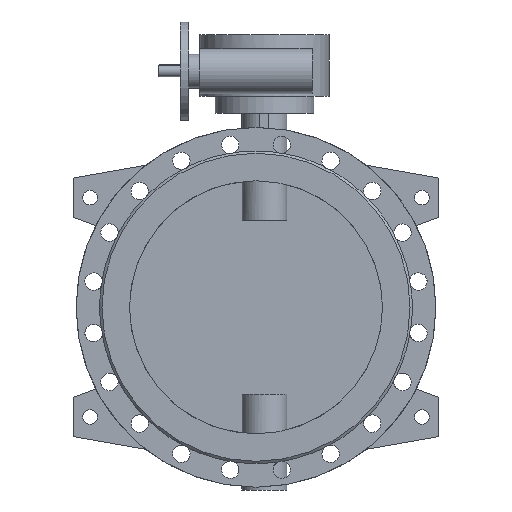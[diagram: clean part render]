
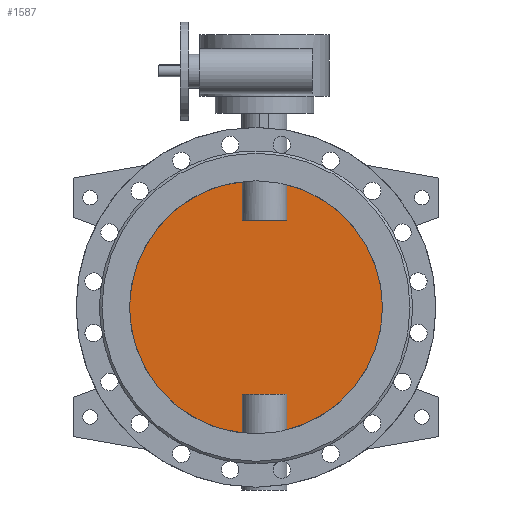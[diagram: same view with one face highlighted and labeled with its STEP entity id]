
A CAD part, front view. The second image highlights one B-rep face of the part: STEP entity #1587.
In plain terms, the highlighted planar face has unit normal (0, -1, 0).
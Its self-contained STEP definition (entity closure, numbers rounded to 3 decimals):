
#1587=ADVANCED_FACE('',(#3227),#3229,.F.);
#3227=FACE_BOUND('',#3228,.T.);
#3228=EDGE_LOOP('',(#4340,#4341,#4342,#4343,#4344,#4345,#4346,#4347));
#3229=PLANE('',#3230);
#3230=AXIS2_PLACEMENT_3D('',#3231,#3232,#3233);
#3231=CARTESIAN_POINT('',(0.,-5.,0.));
#3232=DIRECTION('',(0.,1.,0.));
#3233=DIRECTION('',(1.,0.,0.));
#4340=ORIENTED_EDGE('',*,*,#4892,.T.);
#4341=ORIENTED_EDGE('',*,*,#4902,.T.);
#4342=ORIENTED_EDGE('',*,*,#4903,.T.);
#4343=ORIENTED_EDGE('',*,*,#4904,.T.);
#4344=ORIENTED_EDGE('',*,*,#4894,.T.);
#4345=ORIENTED_EDGE('',*,*,#4905,.T.);
#4346=ORIENTED_EDGE('',*,*,#4906,.T.);
#4347=ORIENTED_EDGE('',*,*,#4907,.T.);
#4892=EDGE_CURVE('',#5791,#5792,#5793,.F.);
#4894=EDGE_CURVE('',#5796,#5794,#5797,.F.);
#4902=EDGE_CURVE('',#5792,#5811,#5812,.T.);
#4903=EDGE_CURVE('',#5811,#5813,#5814,.F.);
#4904=EDGE_CURVE('',#5813,#5796,#5815,.F.);
#4905=EDGE_CURVE('',#5794,#5816,#5817,.F.);
#4906=EDGE_CURVE('',#5816,#5818,#5819,.F.);
#4907=EDGE_CURVE('',#5818,#5791,#5820,.T.);
#5791=VERTEX_POINT('',#11141);
#5792=VERTEX_POINT('',#11142);
#5793=CIRCLE('',#11143,225.);
#5794=VERTEX_POINT('',#11147);
#5796=VERTEX_POINT('',#11233);
#5797=CIRCLE('',#11234,225.);
#5811=VERTEX_POINT('',#11377);
#5812=LINE('',#11378,#11379);
#5813=VERTEX_POINT('',#11381);
#5814=LINE('',#11382,#11383);
#5815=LINE('',#11385,#11386);
#5816=VERTEX_POINT('',#11388);
#5817=LINE('',#11389,#11390);
#5818=VERTEX_POINT('',#11392);
#5819=LINE('',#11393,#11394);
#5820=LINE('',#11396,#11397);
#11141=CARTESIAN_POINT('',(54.686,-5.,-218.253));
#11142=CARTESIAN_POINT('',(54.686,-5.,218.253));
#11143=AXIS2_PLACEMENT_3D('',#11144,#11145,#11146);
#11144=CARTESIAN_POINT('',(0.,-5.,0.));
#11145=DIRECTION('',(0.,1.,0.));
#11146=DIRECTION('',(0.243,0.,0.97));
#11147=CARTESIAN_POINT('',(-24.686,-5.,-223.642));
#11233=CARTESIAN_POINT('',(-24.686,-5.,223.642));
#11234=AXIS2_PLACEMENT_3D('',#11235,#11236,#11237);
#11235=CARTESIAN_POINT('',(0.,-5.,0.));
#11236=DIRECTION('',(0.,1.,0.));
#11237=DIRECTION('',(-0.11,0.,-0.994));
#11377=CARTESIAN_POINT('',(54.686,-5.,155.));
#11378=CARTESIAN_POINT('',(54.686,-5.,218.253));
#11379=VECTOR('',#11380,1.);
#11380=DIRECTION('',(0.,0.,-1.));
#11381=CARTESIAN_POINT('',(-24.686,-5.,155.));
#11382=CARTESIAN_POINT('',(-24.686,-5.,155.));
#11383=VECTOR('',#11384,1.);
#11384=DIRECTION('',(1.,0.,0.));
#11385=CARTESIAN_POINT('',(-24.686,-5.,223.642));
#11386=VECTOR('',#11387,1.);
#11387=DIRECTION('',(0.,0.,-1.));
#11388=CARTESIAN_POINT('',(-24.686,-5.,-155.));
#11389=CARTESIAN_POINT('',(-24.686,-5.,-155.));
#11390=VECTOR('',#11391,1.);
#11391=DIRECTION('',(0.,0.,-1.));
#11392=CARTESIAN_POINT('',(54.686,-5.,-155.));
#11393=CARTESIAN_POINT('',(54.686,-5.,-155.));
#11394=VECTOR('',#11395,1.);
#11395=DIRECTION('',(-1.,0.,0.));
#11396=CARTESIAN_POINT('',(54.686,-5.,-155.));
#11397=VECTOR('',#11398,1.);
#11398=DIRECTION('',(0.,0.,-1.));
